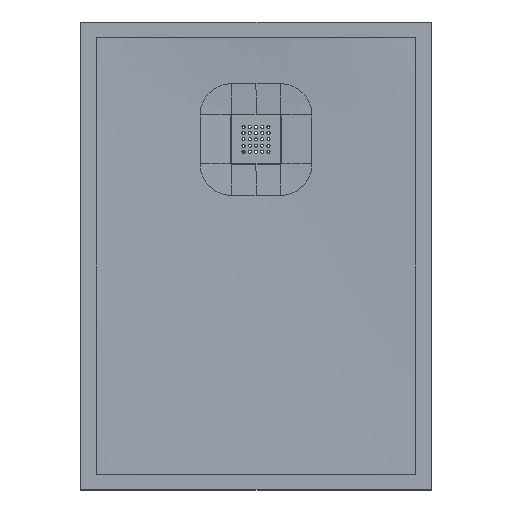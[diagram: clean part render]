
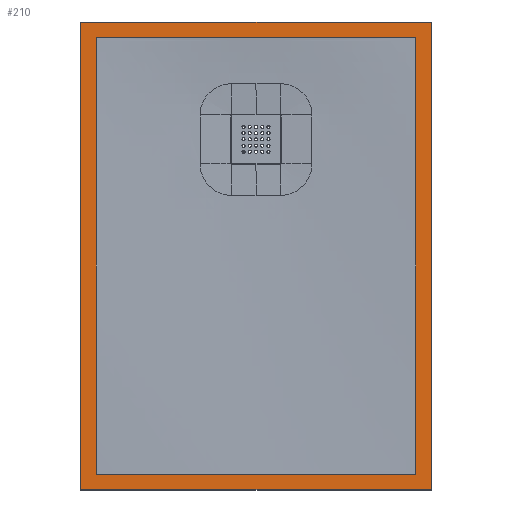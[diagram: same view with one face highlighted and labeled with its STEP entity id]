
A CAD part, top view. The second image highlights one B-rep face of the part: STEP entity #210.
In plain terms, the highlighted planar face has unit normal (0, 0, 1).
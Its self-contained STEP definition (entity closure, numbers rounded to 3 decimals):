
#95=FACE_BOUND('',#495,.T.);
#210=ADVANCED_FACE('',(#326,#95),#1907,.T.);
#326=FACE_OUTER_BOUND('',#494,.T.);
#494=EDGE_LOOP('',(#1072,#1073,#1074,#1075));
#495=EDGE_LOOP('',(#1076,#1077,#1078,#1079));
#1072=ORIENTED_EDGE('',*,*,#1390,.T.);
#1073=ORIENTED_EDGE('',*,*,#1376,.T.);
#1074=ORIENTED_EDGE('',*,*,#1391,.T.);
#1075=ORIENTED_EDGE('',*,*,#1356,.T.);
#1076=ORIENTED_EDGE('',*,*,#1392,.T.);
#1077=ORIENTED_EDGE('',*,*,#1395,.T.);
#1078=ORIENTED_EDGE('',*,*,#1394,.T.);
#1079=ORIENTED_EDGE('',*,*,#1393,.T.);
#1356=EDGE_CURVE('',#1868,#1867,#1479,.T.);
#1376=EDGE_CURVE('',#1879,#1880,#1487,.T.);
#1390=EDGE_CURVE('',#1867,#1879,#1495,.T.);
#1391=EDGE_CURVE('',#1880,#1868,#1496,.T.);
#1392=EDGE_CURVE('',#1883,#1886,#1497,.T.);
#1393=EDGE_CURVE('',#1884,#1883,#1498,.T.);
#1394=EDGE_CURVE('',#1885,#1884,#1499,.T.);
#1395=EDGE_CURVE('',#1886,#1885,#1500,.T.);
#1479=B_SPLINE_CURVE_WITH_KNOTS('',1,(#16694,#16695),.UNSPECIFIED.,.F.,
 .F.,(2,2),(0.,1197.441),.UNSPECIFIED.);
#1487=B_SPLINE_CURVE_WITH_KNOTS('',1,(#16754,#16755),.UNSPECIFIED.,.F.,
 .F.,(2,2),(0.,1197.441),.UNSPECIFIED.);
#1495=B_SPLINE_CURVE_WITH_KNOTS('',1,(#16796,#16797),.UNSPECIFIED.,.F.,
 .F.,(2,2),(0.,797.441),.UNSPECIFIED.);
#1496=B_SPLINE_CURVE_WITH_KNOTS('',1,(#16798,#16799),.UNSPECIFIED.,.F.,
 .F.,(2,2),(0.,797.441),.UNSPECIFIED.);
#1497=B_SPLINE_CURVE_WITH_KNOTS('',1,(#16800,#16801),.UNSPECIFIED.,.F.,
 .F.,(2,2),(-3720.,-2600.),.UNSPECIFIED.);
#1498=B_SPLINE_CURVE_WITH_KNOTS('',1,(#16802,#16803),.UNSPECIFIED.,.F.,
 .F.,(2,2),(-760.,-40.),.UNSPECIFIED.);
#1499=B_SPLINE_CURVE_WITH_KNOTS('',1,(#16804,#16805),.UNSPECIFIED.,.F.,
 .F.,(2,2),(-1880.,-760.),.UNSPECIFIED.);
#1500=B_SPLINE_CURVE_WITH_KNOTS('',1,(#16806,#16807),.UNSPECIFIED.,.F.,
 .F.,(2,2),(-2600.,-1880.),.UNSPECIFIED.);
#1867=VERTEX_POINT('',#15750);
#1868=VERTEX_POINT('',#15751);
#1879=VERTEX_POINT('',#15762);
#1880=VERTEX_POINT('',#15763);
#1883=VERTEX_POINT('',#15766);
#1884=VERTEX_POINT('',#15767);
#1885=VERTEX_POINT('',#15768);
#1886=VERTEX_POINT('',#15769);
#1907=PLANE('',#2154);
#2154=AXIS2_PLACEMENT_3D('',#5078,#2246,$);
#2246=DIRECTION('',(0.,0.,1.));
#5078=CARTESIAN_POINT('',(-48.721,-598.721,30.));
#15750=CARTESIAN_POINT('',(848.721,598.721,30.));
#15751=CARTESIAN_POINT('',(848.721,-598.721,30.));
#15762=CARTESIAN_POINT('',(-48.721,598.721,30.));
#15763=CARTESIAN_POINT('',(-48.721,-598.721,30.));
#15766=CARTESIAN_POINT('',(-9.991,-560.009,30.));
#15767=CARTESIAN_POINT('',(810.009,-560.009,30.));
#15768=CARTESIAN_POINT('',(810.009,559.991,30.));
#15769=CARTESIAN_POINT('',(-9.991,559.991,30.));
#16694=CARTESIAN_POINT('',(848.721,-598.721,30.));
#16695=CARTESIAN_POINT('',(848.721,598.721,30.));
#16754=CARTESIAN_POINT('',(-48.721,598.721,30.));
#16755=CARTESIAN_POINT('',(-48.721,-598.721,30.));
#16796=CARTESIAN_POINT('',(848.721,598.721,30.));
#16797=CARTESIAN_POINT('',(-48.721,598.721,30.));
#16798=CARTESIAN_POINT('',(-48.721,-598.721,30.));
#16799=CARTESIAN_POINT('',(848.721,-598.721,30.));
#16800=CARTESIAN_POINT('',(-9.991,-560.009,30.));
#16801=CARTESIAN_POINT('',(-9.991,559.991,30.));
#16802=CARTESIAN_POINT('',(810.009,-560.009,30.));
#16803=CARTESIAN_POINT('',(-9.991,-560.009,30.));
#16804=CARTESIAN_POINT('',(810.009,559.991,30.));
#16805=CARTESIAN_POINT('',(810.009,-560.009,30.));
#16806=CARTESIAN_POINT('',(-9.991,559.991,30.));
#16807=CARTESIAN_POINT('',(810.009,559.991,30.));
